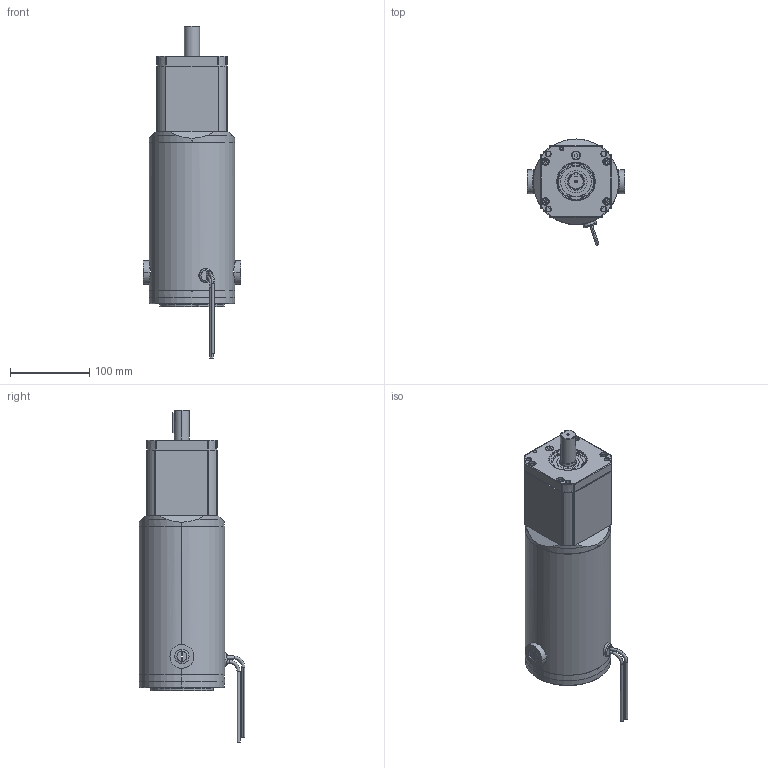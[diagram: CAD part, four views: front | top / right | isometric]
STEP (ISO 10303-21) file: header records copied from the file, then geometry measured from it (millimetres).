
FILE_DESCRIPTION (( 'STEP AP214' ), '1' );
FILE_NAME ('PM10818-PL7300_2S.STEP', '2013-08-23T13:20:48', ( '' ), ( '' ), 'SwSTEP 2.0', 'SolidWorks 2013', '' );
FILE_SCHEMA (( 'AUTOMOTIVE_DESIGN' ));
Length unit declared in the file: inch
Products named in the file (1): PM10818-PL7300_2S
Bounding box: 122.69 x 133.5 x 419.15 mm (x, y, z)
Surface area: 147231.6 mm2 (no closed solid volume)
Topology: 0 solids, 30 shells, 476 faces, 1546 edges, 1058 vertices
Faces by surface type: cylinder 135, plane 127, cone 90, torus 71, bspline 43, sphere 10
Entity records: 25001 total; most frequent: CARTESIAN_POINT 5446, DIRECTION 3031, ORIENTED_EDGE 2454, EDGE_CURVE 1522, AXIS2_PLACEMENT_3D 1236, VERTEX_POINT 1050, CIRCLE 802, VECTOR 559
